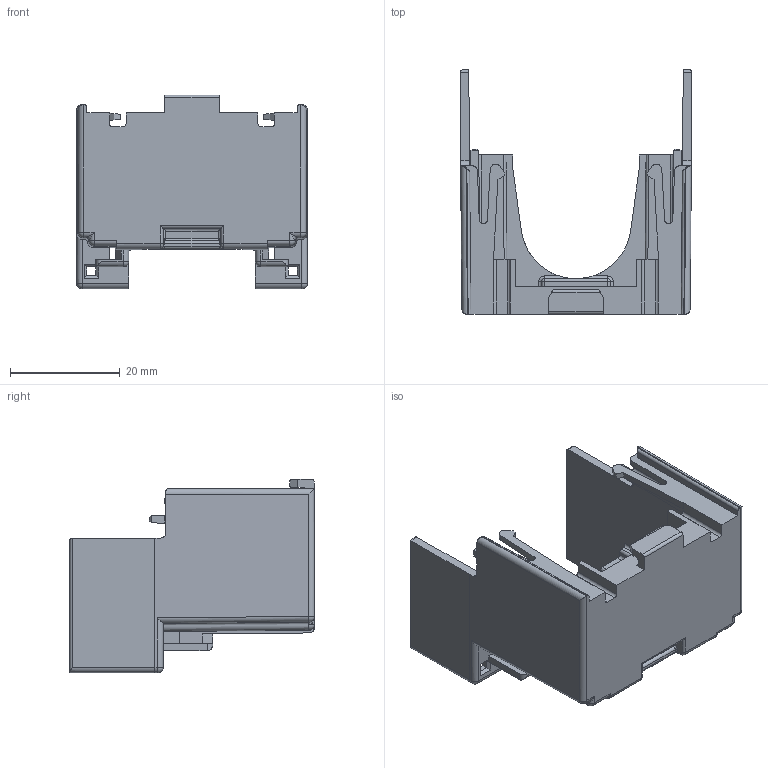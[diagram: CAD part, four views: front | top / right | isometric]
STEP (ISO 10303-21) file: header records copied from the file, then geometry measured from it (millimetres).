
FILE_DESCRIPTION(/* description */ (''),/* implementation_level */ '2;1');
FILE_NAME(/* name */ '1000149',/* time_stamp */ '2014-06-16T14:31:21+02:00',/* author */ (''),/* organization */ (''),/* preprocessor_version */ 'ST-DEVELOPER v9',/* originating_system */ 'UGS - NX 4.0',/* authorisation */ '');
FILE_SCHEMA (('CONFIG_CONTROL_DESIGN'));
Length unit declared in the file: millimetre
Products named in the file (1): MTroCFD28y49
Bounding box: 42 x 44.5 x 35.2 mm (x, y, z)
Volume: 7060.8 mm3; surface area: 9702.2 mm2
Topology: 1 solids, 1 shells, 381 faces, 1019 edges, 609 vertices
Faces by surface type: plane 186, cylinder 147, sphere 24, bspline 16, torus 8
Full cylindrical faces by diameter (mm): 6 x1
Entity records: 11839 total; most frequent: CARTESIAN_POINT 2307, DIRECTION 2011, ORIENTED_EDGE 1976, EDGE_CURVE 988, LINE 681, VECTOR 681, AXIS2_PLACEMENT_3D 665, VERTEX_POINT 609
